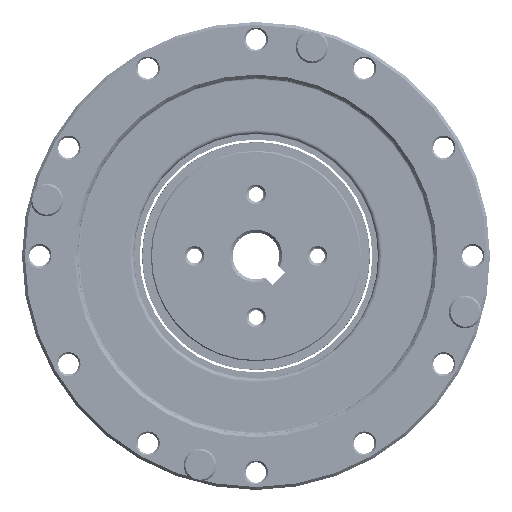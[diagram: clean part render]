
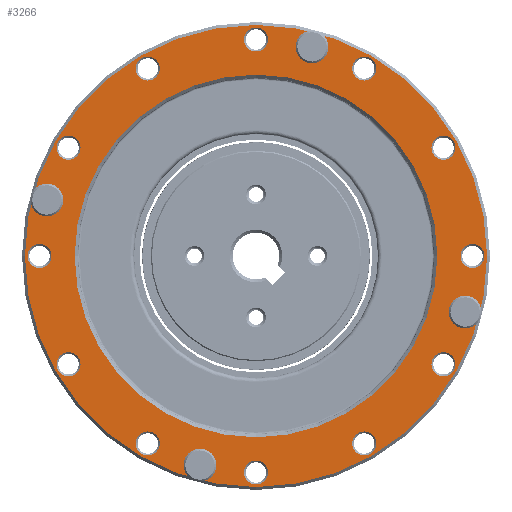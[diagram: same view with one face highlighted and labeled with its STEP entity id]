
A CAD part, front view. The second image highlights one B-rep face of the part: STEP entity #3266.
In plain terms, the highlighted planar face has unit normal (0, -1, 0).
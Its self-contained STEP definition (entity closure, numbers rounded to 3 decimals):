
#1718=PLANE('',#12385);
#3266=ADVANCED_FACE('',(#4046,#4047,#4048,#4049,#4050,#4051,#4052,#4053,
#4054,#4055,#4056,#4057,#4058,#4059,#4060,#4061,#4062,#4063),#1718,.T.);
#4046=FACE_BOUND('',#5198,.T.);
#4047=FACE_BOUND('',#5199,.T.);
#4048=FACE_BOUND('',#5200,.T.);
#4049=FACE_BOUND('',#5201,.T.);
#4050=FACE_BOUND('',#5202,.T.);
#4051=FACE_BOUND('',#5203,.T.);
#4052=FACE_BOUND('',#5204,.T.);
#4053=FACE_BOUND('',#5205,.T.);
#4054=FACE_BOUND('',#5206,.T.);
#4055=FACE_BOUND('',#5207,.T.);
#4056=FACE_BOUND('',#5208,.T.);
#4057=FACE_BOUND('',#5209,.T.);
#4058=FACE_BOUND('',#5210,.T.);
#4059=FACE_BOUND('',#5211,.T.);
#4060=FACE_BOUND('',#5212,.T.);
#4061=FACE_BOUND('',#5213,.T.);
#4062=FACE_BOUND('',#5214,.T.);
#4063=FACE_BOUND('',#5215,.T.);
#5198=EDGE_LOOP('',(#8018));
#5199=EDGE_LOOP('',(#8019));
#5200=EDGE_LOOP('',(#8020));
#5201=EDGE_LOOP('',(#8021));
#5202=EDGE_LOOP('',(#8022));
#5203=EDGE_LOOP('',(#8023));
#5204=EDGE_LOOP('',(#8024));
#5205=EDGE_LOOP('',(#8025));
#5206=EDGE_LOOP('',(#8026));
#5207=EDGE_LOOP('',(#8027));
#5208=EDGE_LOOP('',(#8028));
#5209=EDGE_LOOP('',(#8029));
#5210=EDGE_LOOP('',(#8030));
#5211=EDGE_LOOP('',(#8031));
#5212=EDGE_LOOP('',(#8032));
#5213=EDGE_LOOP('',(#8033));
#5214=EDGE_LOOP('',(#8034));
#5215=EDGE_LOOP('',(#8035));
#8018=ORIENTED_EDGE('',*,*,#10893,.T.);
#8019=ORIENTED_EDGE('',*,*,#10894,.T.);
#8020=ORIENTED_EDGE('',*,*,#10895,.T.);
#8021=ORIENTED_EDGE('',*,*,#10896,.T.);
#8022=ORIENTED_EDGE('',*,*,#10897,.T.);
#8023=ORIENTED_EDGE('',*,*,#10898,.T.);
#8024=ORIENTED_EDGE('',*,*,#10899,.T.);
#8025=ORIENTED_EDGE('',*,*,#10900,.T.);
#8026=ORIENTED_EDGE('',*,*,#10901,.T.);
#8027=ORIENTED_EDGE('',*,*,#10902,.T.);
#8028=ORIENTED_EDGE('',*,*,#10903,.T.);
#8029=ORIENTED_EDGE('',*,*,#10904,.T.);
#8030=ORIENTED_EDGE('',*,*,#10905,.T.);
#8031=ORIENTED_EDGE('',*,*,#10906,.T.);
#8032=ORIENTED_EDGE('',*,*,#10907,.T.);
#8033=ORIENTED_EDGE('',*,*,#10908,.T.);
#8034=ORIENTED_EDGE('',*,*,#10909,.T.);
#8035=ORIENTED_EDGE('',*,*,#10910,.T.);
#9422=VERTEX_POINT('',#118672);
#9423=VERTEX_POINT('',#118674);
#9424=VERTEX_POINT('',#118676);
#9425=VERTEX_POINT('',#118678);
#9426=VERTEX_POINT('',#118680);
#9427=VERTEX_POINT('',#118682);
#9428=VERTEX_POINT('',#118684);
#9429=VERTEX_POINT('',#118686);
#9430=VERTEX_POINT('',#118688);
#9431=VERTEX_POINT('',#118690);
#9432=VERTEX_POINT('',#118692);
#9433=VERTEX_POINT('',#118694);
#9434=VERTEX_POINT('',#118696);
#9435=VERTEX_POINT('',#118698);
#9436=VERTEX_POINT('',#118700);
#9437=VERTEX_POINT('',#118702);
#9438=VERTEX_POINT('',#118704);
#9439=VERTEX_POINT('',#118706);
#10893=EDGE_CURVE('',#9422,#9422,#11450,.T.);
#10894=EDGE_CURVE('',#9423,#9423,#11451,.T.);
#10895=EDGE_CURVE('',#9424,#9424,#11452,.T.);
#10896=EDGE_CURVE('',#9425,#9425,#11453,.T.);
#10897=EDGE_CURVE('',#9426,#9426,#11454,.T.);
#10898=EDGE_CURVE('',#9427,#9427,#11455,.T.);
#10899=EDGE_CURVE('',#9428,#9428,#11456,.T.);
#10900=EDGE_CURVE('',#9429,#9429,#11457,.T.);
#10901=EDGE_CURVE('',#9430,#9430,#11458,.T.);
#10902=EDGE_CURVE('',#9431,#9431,#11459,.T.);
#10903=EDGE_CURVE('',#9432,#9432,#11460,.T.);
#10904=EDGE_CURVE('',#9433,#9433,#11461,.T.);
#10905=EDGE_CURVE('',#9434,#9434,#11462,.T.);
#10906=EDGE_CURVE('',#9435,#9435,#11463,.T.);
#10907=EDGE_CURVE('',#9436,#9436,#11464,.T.);
#10908=EDGE_CURVE('',#9437,#9437,#11465,.T.);
#10909=EDGE_CURVE('',#9438,#9438,#11466,.T.);
#10910=EDGE_CURVE('',#9439,#9439,#11467,.T.);
#11450=CIRCLE('',#12367,31.);
#11451=CIRCLE('',#12368,39.5);
#11452=CIRCLE('',#12369,2.05);
#11453=CIRCLE('',#12370,2.05);
#11454=CIRCLE('',#12371,2.05);
#11455=CIRCLE('',#12372,2.05);
#11456=CIRCLE('',#12373,2.05);
#11457=CIRCLE('',#12374,2.05);
#11458=CIRCLE('',#12375,2.05);
#11459=CIRCLE('',#12376,2.05);
#11460=CIRCLE('',#12377,2.05);
#11461=CIRCLE('',#12378,2.05);
#11462=CIRCLE('',#12379,2.05);
#11463=CIRCLE('',#12380,2.05);
#11464=CIRCLE('',#12381,2.05);
#11465=CIRCLE('',#12382,2.05);
#11466=CIRCLE('',#12383,2.05);
#11467=CIRCLE('',#12384,2.05);
#12367=AXIS2_PLACEMENT_3D('',#118671,#14686,#14687);
#12368=AXIS2_PLACEMENT_3D('',#118673,#14688,#14689);
#12369=AXIS2_PLACEMENT_3D('',#118675,#14690,#14691);
#12370=AXIS2_PLACEMENT_3D('',#118677,#14692,#14693);
#12371=AXIS2_PLACEMENT_3D('',#118679,#14694,#14695);
#12372=AXIS2_PLACEMENT_3D('',#118681,#14696,#14697);
#12373=AXIS2_PLACEMENT_3D('',#118683,#14698,#14699);
#12374=AXIS2_PLACEMENT_3D('',#118685,#14700,#14701);
#12375=AXIS2_PLACEMENT_3D('',#118687,#14702,#14703);
#12376=AXIS2_PLACEMENT_3D('',#118689,#14704,#14705);
#12377=AXIS2_PLACEMENT_3D('',#118691,#14706,#14707);
#12378=AXIS2_PLACEMENT_3D('',#118693,#14708,#14709);
#12379=AXIS2_PLACEMENT_3D('',#118695,#14710,#14711);
#12380=AXIS2_PLACEMENT_3D('',#118697,#14712,#14713);
#12381=AXIS2_PLACEMENT_3D('',#118699,#14714,#14715);
#12382=AXIS2_PLACEMENT_3D('',#118701,#14716,#14717);
#12383=AXIS2_PLACEMENT_3D('',#118703,#14718,#14719);
#12384=AXIS2_PLACEMENT_3D('',#118705,#14720,#14721);
#12385=AXIS2_PLACEMENT_3D('',#118707,#14722,#14723);
#14686=DIRECTION('',(0.,1.,0.));
#14687=DIRECTION('',(0.,0.,-1.));
#14688=DIRECTION('',(0.,-1.,0.));
#14689=DIRECTION('',(0.,0.,-1.));
#14690=DIRECTION('',(0.,1.,0.));
#14691=DIRECTION('',(0.,0.,-1.));
#14692=DIRECTION('',(0.,1.,0.));
#14693=DIRECTION('',(0.,0.,-1.));
#14694=DIRECTION('',(0.,1.,0.));
#14695=DIRECTION('',(0.,0.,-1.));
#14696=DIRECTION('',(0.,1.,0.));
#14697=DIRECTION('',(0.,0.,-1.));
#14698=DIRECTION('',(0.,1.,0.));
#14699=DIRECTION('',(0.,0.,-1.));
#14700=DIRECTION('',(0.,1.,0.));
#14701=DIRECTION('',(0.,0.,-1.));
#14702=DIRECTION('',(0.,1.,0.));
#14703=DIRECTION('',(0.,0.,-1.));
#14704=DIRECTION('',(0.,1.,0.));
#14705=DIRECTION('',(0.,0.,-1.));
#14706=DIRECTION('',(0.,1.,0.));
#14707=DIRECTION('',(0.,0.,-1.));
#14708=DIRECTION('',(0.,1.,0.));
#14709=DIRECTION('',(0.,0.,-1.));
#14710=DIRECTION('',(0.,1.,0.));
#14711=DIRECTION('',(0.,0.,-1.));
#14712=DIRECTION('',(0.,1.,0.));
#14713=DIRECTION('',(0.,0.,-1.));
#14714=DIRECTION('',(0.,1.,0.));
#14715=DIRECTION('',(0.,0.,-1.));
#14716=DIRECTION('',(0.,1.,0.));
#14717=DIRECTION('',(0.,0.,-1.));
#14718=DIRECTION('',(0.,1.,0.));
#14719=DIRECTION('',(0.,0.,-1.));
#14720=DIRECTION('',(0.,1.,0.));
#14721=DIRECTION('',(0.,0.,-1.));
#14722=DIRECTION('',(0.,-1.,0.));
#14723=DIRECTION('',(0.,0.,-1.));
#118671=CARTESIAN_POINT('',(0.,-26.,0.));
#118672=CARTESIAN_POINT('',(0.,-26.,-31.));
#118673=CARTESIAN_POINT('',(0.,-26.,0.));
#118674=CARTESIAN_POINT('',(0.,-26.,-39.5));
#118675=CARTESIAN_POINT('',(37.,-26.,0.));
#118676=CARTESIAN_POINT('',(37.,-26.,-2.05));
#118677=CARTESIAN_POINT('',(35.739,-26.,-9.576));
#118678=CARTESIAN_POINT('',(35.739,-26.,-11.626));
#118679=CARTESIAN_POINT('',(32.043,-26.,-18.5));
#118680=CARTESIAN_POINT('',(32.043,-26.,-20.55));
#118681=CARTESIAN_POINT('',(18.5,-26.,-32.043));
#118682=CARTESIAN_POINT('',(18.5,-26.,-34.093));
#118683=CARTESIAN_POINT('',(0.,-26.,-37.));
#118684=CARTESIAN_POINT('',(0.,-26.,-39.05));
#118685=CARTESIAN_POINT('',(-18.5,-26.,-32.043));
#118686=CARTESIAN_POINT('',(-18.5,-26.,-34.093));
#118687=CARTESIAN_POINT('',(-32.043,-26.,-18.5));
#118688=CARTESIAN_POINT('',(-32.043,-26.,-20.55));
#118689=CARTESIAN_POINT('',(-37.,-26.,0.));
#118690=CARTESIAN_POINT('',(-37.,-26.,-2.05));
#118691=CARTESIAN_POINT('',(-32.043,-26.,18.5));
#118692=CARTESIAN_POINT('',(-32.043,-26.,16.45));
#118693=CARTESIAN_POINT('',(-18.5,-26.,32.043));
#118694=CARTESIAN_POINT('',(-18.5,-26.,29.993));
#118695=CARTESIAN_POINT('',(0.,-26.,37.));
#118696=CARTESIAN_POINT('',(0.,-26.,34.95));
#118697=CARTESIAN_POINT('',(18.5,-26.,32.043));
#118698=CARTESIAN_POINT('',(18.5,-26.,29.993));
#118699=CARTESIAN_POINT('',(32.043,-26.,18.5));
#118700=CARTESIAN_POINT('',(32.043,-26.,16.45));
#118701=CARTESIAN_POINT('',(-9.576,-26.,-35.739));
#118702=CARTESIAN_POINT('',(-9.576,-26.,-37.789));
#118703=CARTESIAN_POINT('',(-35.739,-26.,9.576));
#118704=CARTESIAN_POINT('',(-35.739,-26.,7.526));
#118705=CARTESIAN_POINT('',(9.576,-26.,35.739));
#118706=CARTESIAN_POINT('',(9.576,-26.,33.689));
#118707=CARTESIAN_POINT('',(31.5,-26.,0.));
